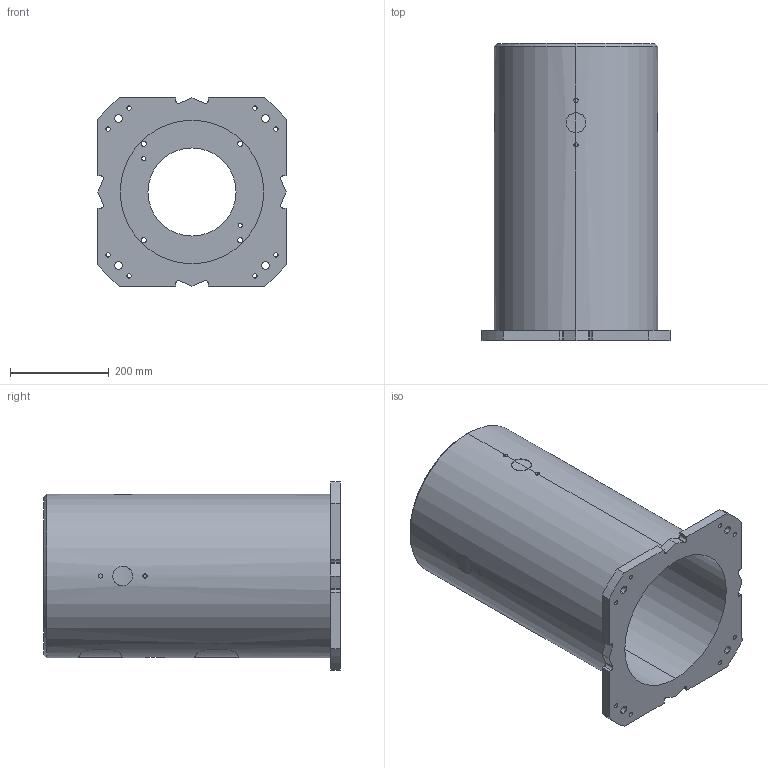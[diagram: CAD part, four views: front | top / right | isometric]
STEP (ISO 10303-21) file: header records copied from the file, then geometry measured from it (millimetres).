
FILE_DESCRIPTION (( 'STEP AP214' ), '1' );
FILE_NAME ('E-600.STEP', '2025-12-05T12:45:33', ( '' ), ( '' ), 'SwSTEP 2.0', 'SolidWorks 2022', '' );
FILE_SCHEMA (( 'AUTOMOTIVE_DESIGN' ));
Length unit declared in the file: millimetre
Products named in the file (1): E-600
Bounding box: 380 x 600 x 380 mm (x, y, z)
Volume: 13421035.8 mm3; surface area: 1406494.4 mm2
Topology: 1 solids, 1 shells, 167 faces, 457 edges, 304 vertices
Faces by surface type: cylinder 113, plane 28, bspline 24, cone 2
Entity records: 12428 total; most frequent: CARTESIAN_POINT 7721, ORIENTED_EDGE 914, DIRECTION 717, EDGE_CURVE 457, VERTEX_POINT 304, AXIS2_PLACEMENT_3D 270, EDGE_LOOP 217, LINE 177
